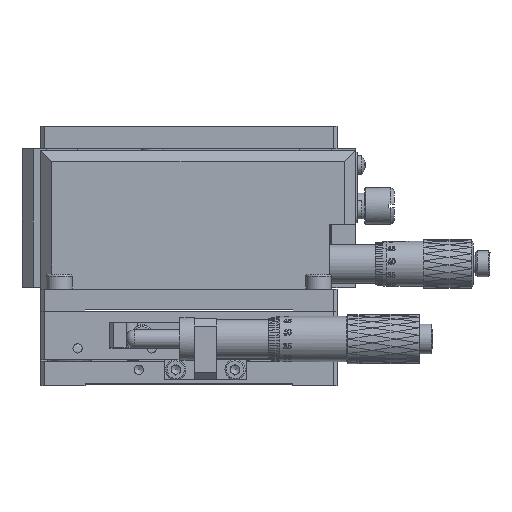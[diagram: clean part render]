
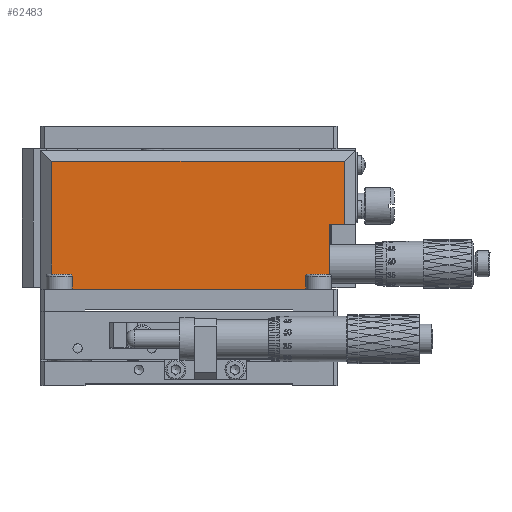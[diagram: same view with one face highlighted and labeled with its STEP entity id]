
A CAD part, top view. The second image highlights one B-rep face of the part: STEP entity #62483.
In plain terms, the highlighted planar face has unit normal (0, 0, 1).
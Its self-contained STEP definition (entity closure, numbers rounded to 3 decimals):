
#3247 = CARTESIAN_POINT ( 'NONE',  ( 3., 63.5, 29. ) ) ;
#7666 = ORIENTED_EDGE ( 'NONE', *, *, #47061, .T. ) ;
#8797 = EDGE_CURVE ( 'NONE', #72644, #79980, #20931, .T. ) ;
#11039 = CARTESIAN_POINT ( 'NONE',  ( 82., 63.5, 29. ) ) ;
#13817 = PLANE ( 'NONE',  #171675 ) ;
#17479 = EDGE_LOOP ( 'NONE', ( #83185, #7666, #18039, #96357, #137577, #27377 ) ) ;
#18039 = ORIENTED_EDGE ( 'NONE', *, *, #8797, .T. ) ;
#20931 = LINE ( 'NONE', #47885, #168987 ) ;
#24286 = CARTESIAN_POINT ( 'NONE',  ( 42.5, 43.5, 29. ) ) ;
#26779 = DIRECTION ( 'NONE',  ( 0., -1., 0. ) ) ;
#27377 = ORIENTED_EDGE ( 'NONE', *, *, #100409, .T. ) ;
#31250 = VECTOR ( 'NONE', #156072, 1000. ) ;
#39834 = LINE ( 'NONE', #3247, #78386 ) ;
#41887 = CARTESIAN_POINT ( 'NONE',  ( 78., 43.5, 29. ) ) ;
#43596 = DIRECTION ( 'NONE',  ( -1., 0., 0. ) ) ;
#47053 = CARTESIAN_POINT ( 'NONE',  ( 40., 26., 29. ) ) ;
#47061 = EDGE_CURVE ( 'NONE', #49819, #72644, #128356, .T. ) ;
#47885 = CARTESIAN_POINT ( 'NONE',  ( 42.5, 60.5, 29. ) ) ;
#48418 = CARTESIAN_POINT ( 'NONE',  ( 3., 60.5, 29. ) ) ;
#48579 = VECTOR ( 'NONE', #75557, 1000. ) ;
#48748 = VECTOR ( 'NONE', #118718, 1000. ) ;
#48855 = CARTESIAN_POINT ( 'NONE',  ( 78., 26., 29. ) ) ;
#49819 = VERTEX_POINT ( 'NONE', #170862 ) ;
#62483 = ADVANCED_FACE ( 'NONE', ( #132845 ), #13817, .T. ) ;
#72644 = VERTEX_POINT ( 'NONE', #129205 ) ;
#75557 = DIRECTION ( 'NONE',  ( -1., 0., 0. ) ) ;
#78386 = VECTOR ( 'NONE', #26779, 1000. ) ;
#79980 = VERTEX_POINT ( 'NONE', #48418 ) ;
#83185 = ORIENTED_EDGE ( 'NONE', *, *, #103278, .F. ) ;
#89987 = VERTEX_POINT ( 'NONE', #129963 ) ;
#92054 = CARTESIAN_POINT ( 'NONE',  ( 42.5, 63.5, 29. ) ) ;
#92163 = EDGE_CURVE ( 'NONE', #79980, #89987, #39834, .T. ) ;
#96357 = ORIENTED_EDGE ( 'NONE', *, *, #92163, .T. ) ;
#100409 = EDGE_CURVE ( 'NONE', #123930, #151865, #122133, .T. ) ;
#103278 = EDGE_CURVE ( 'NONE', #49819, #151865, #143286, .T. ) ;
#118718 = DIRECTION ( 'NONE',  ( 0., 1., 0. ) ) ;
#119584 = CARTESIAN_POINT ( 'NONE',  ( 78., 63.5, 29. ) ) ;
#120710 = DIRECTION ( 'NONE',  ( 0., 0., 1. ) ) ;
#122133 = LINE ( 'NONE', #119584, #48748 ) ;
#123930 = VERTEX_POINT ( 'NONE', #48855 ) ;
#128356 = LINE ( 'NONE', #11039, #31250 ) ;
#129205 = CARTESIAN_POINT ( 'NONE',  ( 82., 60.5, 29. ) ) ;
#129963 = CARTESIAN_POINT ( 'NONE',  ( 3., 26., 29. ) ) ;
#132845 = FACE_OUTER_BOUND ( 'NONE', #17479, .T. ) ;
#137391 = LINE ( 'NONE', #47053, #170946 ) ;
#137577 = ORIENTED_EDGE ( 'NONE', *, *, #146080, .F. ) ;
#143286 = LINE ( 'NONE', #24286, #48579 ) ;
#146080 = EDGE_CURVE ( 'NONE', #123930, #89987, #137391, .T. ) ;
#151865 = VERTEX_POINT ( 'NONE', #41887 ) ;
#153784 = DIRECTION ( 'NONE',  ( -1., 0., 0. ) ) ;
#156072 = DIRECTION ( 'NONE',  ( 0., 1., 0. ) ) ;
#168987 = VECTOR ( 'NONE', #153784, 1000. ) ;
#170862 = CARTESIAN_POINT ( 'NONE',  ( 82., 43.5, 29. ) ) ;
#170946 = VECTOR ( 'NONE', #43596, 1000. ) ;
#171023 = DIRECTION ( 'NONE',  ( 0., -1., 0. ) ) ;
#171675 = AXIS2_PLACEMENT_3D ( 'NONE', #92054, #120710, #171023 ) ;
